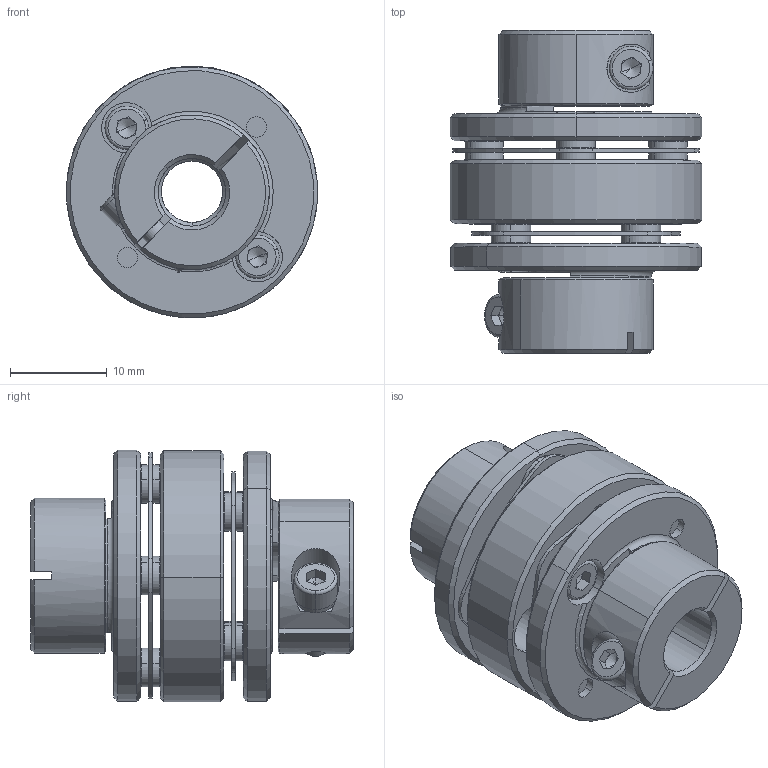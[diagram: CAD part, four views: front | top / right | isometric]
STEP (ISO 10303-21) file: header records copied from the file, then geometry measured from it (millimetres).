
FILE_DESCRIPTION (( 'STEP AP203' ), '1' );
FILE_NAME ('LE2-B-D26L35-6.35-7.STEP', '2021-11-01T05:48:13', ( '' ), ( '' ), 'SwSTEP 2.0', 'SolidWorks 2018', '' );
FILE_SCHEMA (( 'CONFIG_CONTROL_DESIGN' ));
Length unit declared in the file: millimetre
Products named in the file (1): LE2-B-D26L35-6.35-7
Bounding box: 26 x 33.4 x 26.06 mm (x, y, z)
Volume: 7716.6 mm3; surface area: 8344 mm2
Topology: 1 solids, 17 shells, 676 faces, 1573 edges, 945 vertices
Faces by surface type: cylinder 227, plane 220, cone 205, torus 24
Entity records: 19513 total; most frequent: DIRECTION 3652, CARTESIAN_POINT 3504, ORIENTED_EDGE 3106, EDGE_CURVE 1553, AXIS2_PLACEMENT_3D 1477, VERTEX_POINT 945, CIRCLE 800, EDGE_LOOP 784
